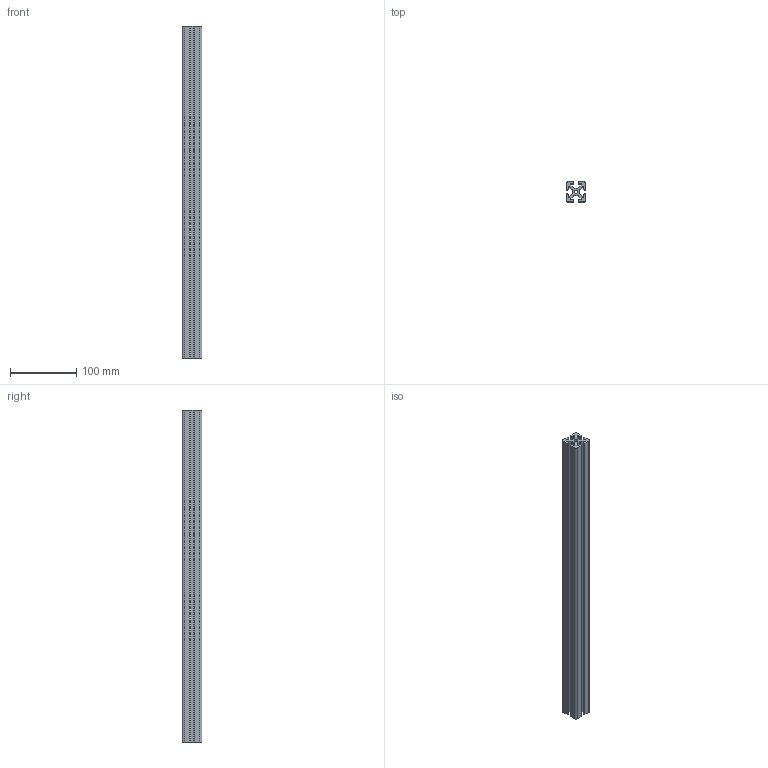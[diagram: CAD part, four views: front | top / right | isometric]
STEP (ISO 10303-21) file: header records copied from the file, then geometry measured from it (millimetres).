
FILE_DESCRIPTION (( 'STEP AP203' ), '1' );
FILE_NAME ('PP3010-500-Rollco.step', '2026-05-04T07:37:29', ( '' ), ( '' ), 'SwSTEP 2.0', 'SolidWorks 2014', '' );
FILE_SCHEMA (( 'CONFIG_CONTROL_DESIGN' ));
Length unit declared in the file: millimetre
Products named in the file (1): PP3010-500-Rollco
Bounding box: 30 x 30 x 500 mm (x, y, z)
Volume: 235691.9 mm3; surface area: 127655.3 mm2
Topology: 1 solids, 1 shells, 78 faces, 228 edges, 152 vertices
Faces by surface type: cylinder 40, plane 38
Entity records: 2693 total; most frequent: DIRECTION 466, CARTESIAN_POINT 459, ORIENTED_EDGE 456, EDGE_CURVE 228, AXIS2_PLACEMENT_3D 159, VERTEX_POINT 152, LINE 148, VECTOR 148
